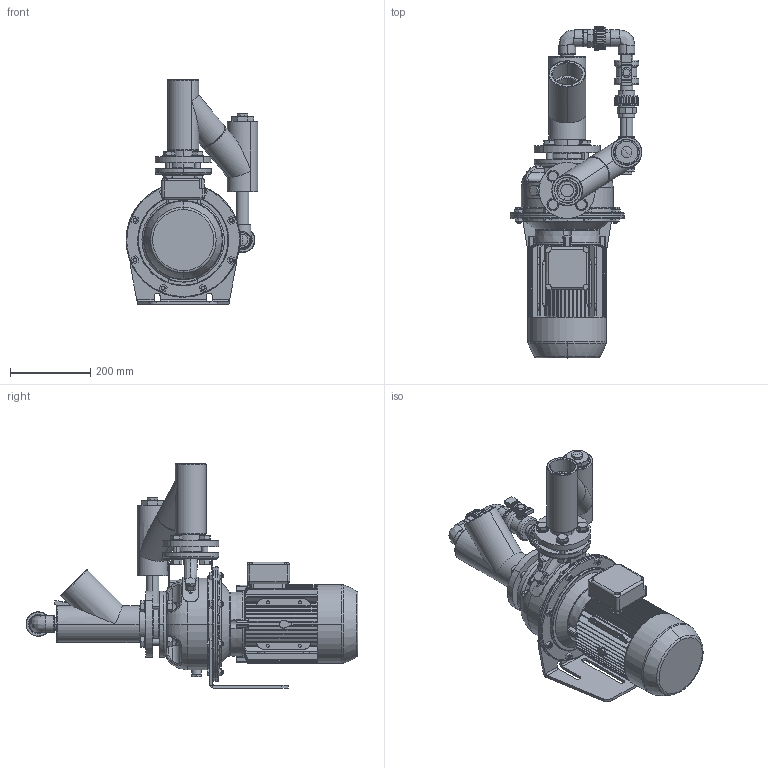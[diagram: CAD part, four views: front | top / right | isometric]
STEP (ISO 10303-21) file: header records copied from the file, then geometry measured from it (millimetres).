
FILE_DESCRIPTION (( 'STEP AP203' ), '1' );
FILE_NAME ('Lowara SHE 32-200 z.a.z handbed. by-pass.STEP', '2011-04-06T07:40:31', ( '' ), ( '' ), 'SwSTEP 2.0', 'SolidWorks 2010', '' );
FILE_SCHEMA (( 'CONFIG_CONTROL_DESIGN' ));
Products named in the file (1): Lowara SHE 32-200 z.a.z handbed. by-pass
Bounding box: 328.96 x 827.94 x 559.87 mm (x, y, z)
Volume: 18067040.9 mm3; surface area: 2050760.7 mm2
Topology: 61 solids, 63 shells, 2727 faces, 6929 edges, 4318 vertices
Faces by surface type: plane 1048, cylinder 829, cone 463, bspline 362, torus 25
Entity records: 116967 total; most frequent: CARTESIAN_POINT 55365, ORIENTED_EDGE 13642, DIRECTION 11790, EDGE_CURVE 6821, AXIS2_PLACEMENT_3D 4630, VERTEX_POINT 4323, EDGE_LOOP 2992, FACE_OUTER_BOUND 2728
